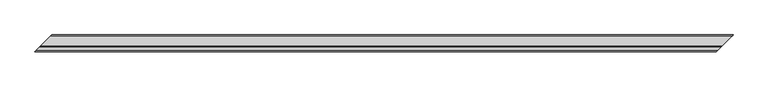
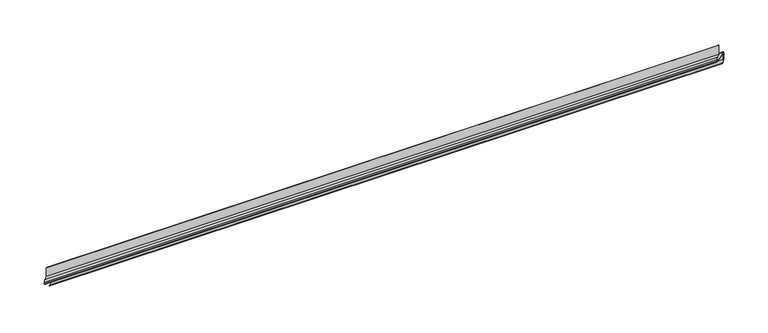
"""IFC4 building model written with IfcOpenShell, lengths in millimetres: proxy geometry, Слив_цоколя : Тип."""

from ifc_helpers import new_model, si_unit, frame, origin, place, context, project, spatial, polyline, ellipse_curve, source, transform, mapped, element, save
from ifc_brep_helpers import plane_surface, cylinder_surface, revolved_surface, advanced_brep


def generic_models_8cf6980d(model_context):
    return source(origin(), model_context, "Body", "AdvancedBrep", [
        advanced_brep(
        [(-1512.9555242, 220.7097399, -35.1867822), (-1505.3886675, 228.2765966, -42.0595371), (1791.9418608, 228.2765966, -42.0595371), (1784.3750041, 220.7097399, -35.1867822), (-1488.6652641, 245.0, -34.6571153), (1808.6652641, 245.0, -34.6571153), (-1488.6652641, 245.0, 0.0), (1808.6652641, 245.0, 0.0), (-1492.394436, 241.2708281, 4.8358035), (1804.9360923, 241.2708281, 4.8358035), (-1523.6652641, 210.0, 13.8714094), (-1563.7004721, 169.964792, 25.4394549), (1733.6300562, 169.964792, 25.4394549), (1773.6652641, 210.0, 13.8714094), (-1567.429644, 166.2356202, 30.2752584), (1729.9008843, 166.2356202, 30.2752584), (-1567.429644, 166.2356202, 37.8625579), (1729.9008843, 166.2356202, 37.8625579), (-1562.429644, 171.2356202, 42.8625579), (1734.9008843, 171.2356202, 42.8625579), (-1543.6652641, 190.0, 42.8625579), (1753.6652641, 190.0, 42.8625579), (-1543.6652641, 190.0, 90.6442999), (1753.6652641, 190.0, 90.6442999), (-1545.6652641, 188.0, 90.6442999), (1751.6652641, 188.0, 90.6442999), (-1545.6652641, 188.0, 44.8625579), (1751.6652641, 188.0, 44.8625579), (-1562.429644, 171.2356202, 44.8625579), (1734.9008843, 171.2356202, 44.8625579), (-1569.429644, 164.2356202, 37.8625579), (1727.9008843, 164.2356202, 37.8625579), (-1569.429644, 164.2356202, 30.2752584), (1727.9008843, 164.2356202, 30.2752584), (-1564.2342668, 169.4309974, 23.5118764), (1733.0962615, 169.4309974, 23.5118764), (-1523.6652641, 210.0, 11.7895927), (-1492.9233051, 240.741959, 2.9068018), (1804.4072231, 240.741959, 2.9068018), (1773.6652641, 210.0, 11.7895927), (-1490.6652641, 243.0, 0.0), (1806.6652641, 243.0, 0.0), (-1490.6652641, 243.0, -34.6571153), (1806.6652641, 243.0, -34.6571153), (-1504.0439868, 229.6212773, -40.5790527), (1793.2865415, 229.6212773, -40.5790527), (-1511.5396777, 222.1255864, -33.7709357), (1785.7908506, 222.1255864, -33.7709357)],
        [
            (0, 1),
            (1, 2),
            (2, 3),
            (3, 0),
            (1, 4, ellipse_curve(frame((-1498.6652641, 235.0, -34.6571153), z_axis=(0.7071067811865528, -0.7071067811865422, 0.0), x_axis=(0.7071067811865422, 0.7071067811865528, 0.0)), 14.1421356, 10.0)),
            (4, 5),
            (5, 2, ellipse_curve(frame((1798.6652641, 235.0, -34.6571153), z_axis=(-0.7071067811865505, 0.7071067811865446, 0.0), x_axis=(0.7071067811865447, 0.7071067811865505, 0.0)), 14.1421356, 10.0)),
            (4, 6),
            (6, 7),
            (7, 5),
            (6, 8, ellipse_curve(frame((-1493.6652641, 240.0, 0.0), z_axis=(0.7071067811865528, -0.7071067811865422, 0.0), x_axis=(0.7071067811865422, 0.7071067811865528, 0.0)), 7.0710678, 5.0)),
            (8, 9),
            (9, 7, ellipse_curve(frame((1803.6652641, 240.0, 0.0), z_axis=(-0.7071067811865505, 0.7071067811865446, 0.0), x_axis=(0.7071067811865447, 0.7071067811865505, 0.0)), 7.0710678, 5.0)),
            (8, 10),
            (10, 11),
            (11, 12),
            (12, 13),
            (13, 9),
            (11, 14, ellipse_curve(frame((-1562.429644, 171.2356202, 30.2752584), z_axis=(-0.7071067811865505, 0.7071067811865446, 0.0), x_axis=(-0.7071067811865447, -0.7071067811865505, 0.0)), 7.0710678, 5.0)),
            (14, 15),
            (15, 12, ellipse_curve(frame((1734.9008843, 171.2356202, 30.2752584), z_axis=(0.7071067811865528, -0.7071067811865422, 0.0), x_axis=(-0.7071067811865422, -0.7071067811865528, 0.0)), 7.0710678, 5.0)),
            (14, 16),
            (16, 17),
            (17, 15),
            (16, 18, ellipse_curve(frame((-1562.429644, 171.2356202, 37.8625579), z_axis=(-0.7071067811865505, 0.7071067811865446, 0.0), x_axis=(-0.7071067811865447, -0.7071067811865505, 0.0)), 7.0710678, 5.0)),
            (18, 19),
            (19, 17, ellipse_curve(frame((1734.9008843, 171.2356202, 37.8625579), z_axis=(0.7071067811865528, -0.7071067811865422, 0.0), x_axis=(-0.7071067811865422, -0.7071067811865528, 0.0)), 7.0710678, 5.0)),
            (18, 20),
            (20, 21),
            (21, 19),
            (20, 22),
            (22, 23),
            (23, 21),
            (22, 24),
            (24, 25),
            (25, 23),
            (24, 26),
            (26, 27),
            (27, 25),
            (26, 28),
            (28, 29),
            (29, 27),
            (28, 30, ellipse_curve(frame((-1562.429644, 171.2356202, 37.8625579), z_axis=(0.7071067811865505, -0.7071067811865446, 0.0), x_axis=(0.7071067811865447, 0.7071067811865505, 0.0)), 9.8994949, 7.0)),
            (30, 31),
            (31, 29, ellipse_curve(frame((1734.9008843, 171.2356202, 37.8625579), z_axis=(-0.7071067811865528, 0.7071067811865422, 0.0), x_axis=(0.7071067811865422, 0.7071067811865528, 0.0)), 9.8994949, 7.0)),
            (30, 32),
            (32, 33),
            (33, 31),
            (32, 34, ellipse_curve(frame((-1562.429644, 171.2356202, 30.2752584), z_axis=(0.7071067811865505, -0.7071067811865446, 0.0), x_axis=(0.7071067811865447, 0.7071067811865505, 0.0)), 9.8994949, 7.0)),
            (34, 35),
            (35, 33, ellipse_curve(frame((1734.9008843, 171.2356202, 30.2752584), z_axis=(-0.7071067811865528, 0.7071067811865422, 0.0), x_axis=(0.7071067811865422, 0.7071067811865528, 0.0)), 9.8994949, 7.0)),
            (36, 37),
            (37, 38),
            (38, 39),
            (39, 35),
            (34, 36),
            (37, 40, ellipse_curve(frame((-1493.6652641, 240.0, 0.0), z_axis=(-0.7071067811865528, 0.7071067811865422, 0.0), x_axis=(-0.7071067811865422, -0.7071067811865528, 0.0)), 4.2426407, 3.0)),
            (40, 41),
            (41, 38, ellipse_curve(frame((1803.6652641, 240.0, 0.0), z_axis=(0.7071067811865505, -0.7071067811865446, 0.0), x_axis=(-0.7071067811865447, -0.7071067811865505, 0.0)), 4.2426407, 3.0)),
            (40, 42),
            (42, 43),
            (43, 41),
            (42, 44, ellipse_curve(frame((-1498.6652641, 235.0, -34.6571153), z_axis=(-0.7071067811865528, 0.7071067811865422, 0.0), x_axis=(-0.7071067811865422, -0.7071067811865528, 0.0)), 11.3137085, 8.0)),
            (44, 45),
            (45, 43, ellipse_curve(frame((1798.6652641, 235.0, -34.6571153), z_axis=(0.7071067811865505, -0.7071067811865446, 0.0), x_axis=(-0.7071067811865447, -0.7071067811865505, 0.0)), 11.3137085, 8.0)),
            (44, 46),
            (46, 47),
            (47, 45),
            (46, 0),
            (3, 47),
            (36, 10),
            (39, 13),
        ],
        [
            plane_surface(frame((2273.6652641, 220.7097399, -35.1867822), z_axis=(0.0, -0.6723403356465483, -0.7402421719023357), x_axis=(-1.0, 0.0, 0.0))),
            cylinder_surface(frame((-2023.6652641, 235.0, -34.6571153), z_axis=(1.0, 0.0, 0.0), x_axis=(0.0, 1.0, 0.0)), 10.0),
            plane_surface(frame((2273.6652641, 245.0, -34.6571153), z_axis=(0.0, 1.0, 0.0), x_axis=(-1.0, 0.0, 0.0))),
            cylinder_surface(frame((-2023.6652641, 240.0, 0.0), z_axis=(1.0, 0.0, 0.0), x_axis=(0.0, 1.0, 0.0)), 5.0),
            plane_surface(frame((2273.6652641, 241.2708281, 4.8358035), z_axis=(0.0, 0.27759100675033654, 0.9606993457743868), x_axis=(-1.0, 0.0, 0.0))),
            revolved_surface(polyline([(-1567.429644, 176.2356202, 30.2752584), (1739.90088429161, 176.2356202, 30.2752584)]), (-2023.6652641, 171.2356202, 30.2752584), (-1.0, 0.0, 0.0)),
            plane_surface(frame((2273.6652641, 166.2356202, 30.2752584), z_axis=(0.0, 1.0, 0.0), x_axis=(-1.0, 0.0, 0.0))),
            revolved_surface(polyline([(-1567.429644, 176.2356202, 37.8625579), (1739.90088429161, 176.2356202, 37.8625579)]), (-2023.6652641, 171.2356202, 37.8625579), (-1.0, 0.0, 0.0)),
            plane_surface(frame((2273.6652641, 171.2356202, 42.8625579), z_axis=(0.0, 0.0, -1.0), x_axis=(-1.0, 0.0, 0.0))),
            plane_surface(frame((2273.6652641, 190.0, 42.8625579), z_axis=(0.0, 1.0, 0.0), x_axis=(-1.0, 0.0, 0.0))),
            plane_surface(frame((2273.6652641, 190.0, 90.6442999), z_axis=(0.0, 0.0, 1.0), x_axis=(-1.0, 0.0, 0.0))),
            plane_surface(frame((2273.6652641, 188.0, 90.6442999), z_axis=(0.0, -1.0, 0.0), x_axis=(-1.0, 0.0, 0.0))),
            plane_surface(frame((2273.6652641, 188.0, 44.8625579), z_axis=(0.0, 0.0, 1.0), x_axis=(-1.0, 0.0, 0.0))),
            cylinder_surface(frame((-2023.6652641, 171.2356202, 37.8625579), z_axis=(1.0, 0.0, 0.0), x_axis=(0.0, 1.0, 0.0)), 7.0),
            plane_surface(frame((2273.6652641, 164.2356202, 37.8625579), z_axis=(0.0, -1.0, 0.0), x_axis=(-1.0, 0.0, 0.0))),
            cylinder_surface(frame((-2023.6652641, 171.2356202, 30.2752584), z_axis=(1.0, 0.0, 0.0), x_axis=(0.0, 1.0, 0.0)), 7.0),
            plane_surface(frame((2273.6652641, 169.4309974, 23.5118764), z_axis=(0.0, -0.2775910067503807, -0.960699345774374), x_axis=(-1.0, 0.0, 0.0))),
            revolved_surface(polyline([(-1496.6652641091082, 243.0, 0.0), (1806.6652641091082, 243.0, 0.0)]), (-2023.6652641, 240.0, 0.0), (-1.0, 0.0, 0.0)),
            plane_surface(frame((2273.6652641, 243.0, 0.0), z_axis=(0.0, -1.0, 0.0), x_axis=(-1.0, 0.0, 0.0))),
            revolved_surface(polyline([(-1506.6652641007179, 243.0, -34.6571153), (1806.665264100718, 243.0, -34.6571153)]), (-2023.6652641, 235.0, -34.6571153), (-1.0, 0.0, 0.0)),
            plane_surface(frame((2273.6652641, 229.6212773, -40.5790527), z_axis=(0.0, 0.6723403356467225, 0.7402421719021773), x_axis=(-1.0, 0.0, 0.0))),
            plane_surface(frame((2273.6652641, 222.1255864, -33.7709357), z_axis=(0.0, -0.7071067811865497, 0.7071067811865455), x_axis=(-1.0, 0.0, 0.0))),
            plane_surface(frame((-1523.6652641, 210.0, 508.0), z_axis=(-0.7071067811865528, 0.7071067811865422, 0.0), x_axis=(0.7071067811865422, 0.7071067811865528, 0.0))),
            plane_surface(frame((-1523.6652641, 210.0, 508.0), z_axis=(-0.7071067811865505, 0.7071067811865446, 0.0), x_axis=(-0.7071067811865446, -0.7071067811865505, 0.0))),
            plane_surface(frame((1773.6652641, 210.0, -508.0), z_axis=(0.7071067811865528, -0.7071067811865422, 0.0), x_axis=(-0.7071067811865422, -0.7071067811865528, 0.0))),
            plane_surface(frame((1773.6652641, 210.0, -508.0), z_axis=(0.7071067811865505, -0.7071067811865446, 0.0), x_axis=(0.7071067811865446, 0.7071067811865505, 0.0))),
        ],
        [
            (0, [[1, 2, 3, 4]]),
            (1, [[5, 6, 7, -2]]),
            (2, [[8, 9, 10, -6]]),
            (3, [[11, 12, 13, -9]]),
            (4, [[14, 15, 16, 17, 18, -12]]),
            (5, [[19, 20, 21, -16]]),
            (6, [[22, 23, 24, -20]]),
            (7, [[25, 26, 27, -23]]),
            (8, [[28, 29, 30, -26]]),
            (9, [[31, 32, 33, -29]]),
            (10, [[34, 35, 36, -32]]),
            (11, [[37, 38, 39, -35]]),
            (12, [[40, 41, 42, -38]]),
            (13, [[43, 44, 45, -41]]),
            (14, [[46, 47, 48, -44]]),
            (15, [[49, 50, 51, -47]]),
            (16, [[52, 53, 54, 55, -50, 56]]),
            (17, [[57, 58, 59, -53]]),
            (18, [[60, 61, 62, -58]]),
            (19, [[63, 64, 65, -61]]),
            (20, [[66, 67, 68, -64]]),
            (21, [[69, -4, 70, -67]]),
            (22, [[71, -14, -11, -8, -5, -1, -69, -66, -63, -60, -57, -52]]),
            (23, [[-71, -56, -49, -46, -43, -40, -37, -34, -31, -28, -25, -22, -19, -15]]),
            (24, [[72, -17, -21, -24, -27, -30, -33, -36, -39, -42, -45, -48, -51, -55]]),
            (25, [[-72, -54, -59, -62, -65, -68, -70, -3, -7, -10, -13, -18]]),
        ],
    ),
    ])


if __name__ == "__main__":
    model = new_model("IFC4")
    model_context = context("Model", 3, world=origin())
    ifc_project = project(units=[si_unit("LENGTHUNIT", "METRE", prefix="MILLI")], contexts=[model_context])
    site = spatial("IfcSite", under=ifc_project)
    building = spatial("IfcBuilding", under=site)
    placement = place(None, origin())
    generic_models_shape = generic_models_8cf6980d(model_context)
    element("IfcBuildingElementProxy", 1, Name="Слив_цоколя : Тип", ObjectType="Слив_цоколя : Тип", at=placement, inside=building, context=model_context, shape_type="MappedRepresentation", body=[
        mapped(generic_models_shape, transform((0.0, 0.0, 0.0), x_axis=(1.0, 0.0, 0.0), y_axis=(0.0, 1.0, 0.0), z_axis=(0.0, 0.0, 1.0))),
    ])
    save(model, "model.ifc")
